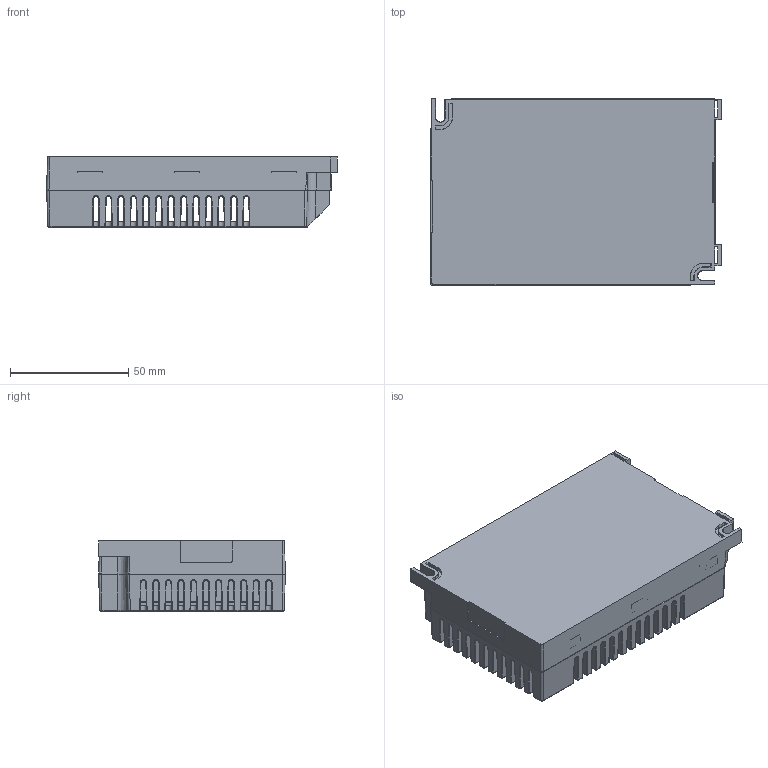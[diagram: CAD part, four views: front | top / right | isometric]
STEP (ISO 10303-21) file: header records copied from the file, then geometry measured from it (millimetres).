
FILE_DESCRIPTION (( 'STEP AP203' ), '1' );
FILE_NAME ('LC35_DA_iC_.STEP', '2017-04-11T09:31:06', ( '' ), ( '' ), 'SwSTEP 2.0', 'SolidWorks 2014', '' );
FILE_SCHEMA (( 'CONFIG_CONTROL_DESIGN' ));
Length unit declared in the file: millimetre
Products named in the file (7): pcb LC1x35; 2n; 4n; LC35_DA_iC_; 50w uusi kansi_tulostus; 50w uusi pohja; LC35_DA_iC
Assembly tree (8 placements, depth 3):
  LC35_DA_iC_
    LC35_DA_iC
      50w uusi kansi_tulostus
      50w uusi pohja
    pcb LC1x35
    2n  x3
    4n
Bounding box: 123.06 x 79 x 29.65 mm (x, y, z)
Volume: 67636.6 mm3; surface area: 84915.6 mm2
Topology: 7 solids, 7 shells, 1426 faces, 3889 edges, 2430 vertices
Faces by surface type: plane 718, cylinder 433, bspline 79, sphere 76, cone 73, torus 47
Entity records: 40855 total; most frequent: CARTESIAN_POINT 10256, ORIENTED_EDGE 6634, DIRECTION 5900, EDGE_CURVE 3317, LINE 2176, VECTOR 2176, VERTEX_POINT 2054, AXIS2_PLACEMENT_3D 1862
